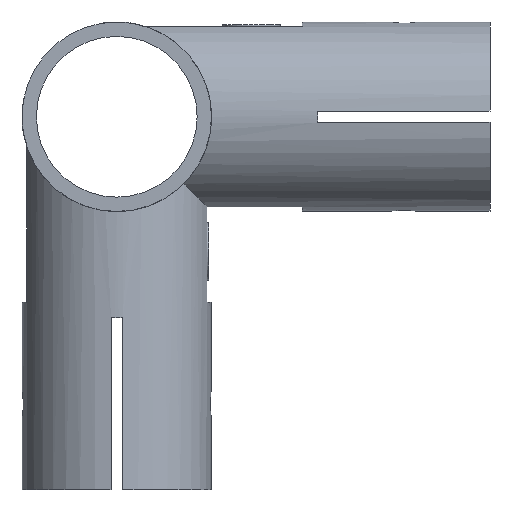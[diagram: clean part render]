
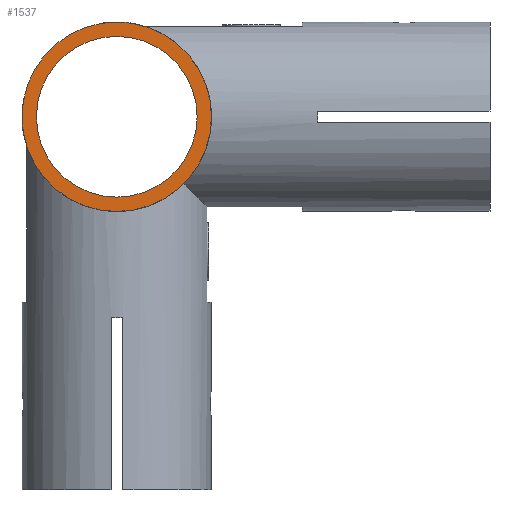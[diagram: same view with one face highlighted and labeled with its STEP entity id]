
A CAD part, front view. The second image highlights one B-rep face of the part: STEP entity #1537.
In plain terms, the highlighted planar face has unit normal (0, -1, 0).
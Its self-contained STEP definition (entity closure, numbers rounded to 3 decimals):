
#152 = CARTESIAN_POINT ( 'NONE',  ( 0., -16.5, 0. ) ) ;
#287 = ORIENTED_EDGE ( 'NONE', *, *, #788, .F. ) ;
#318 = AXIS2_PLACEMENT_3D ( 'NONE', #152, #434, #1244 ) ;
#378 = AXIS2_PLACEMENT_3D ( 'NONE', #2059, #723, #3054 ) ;
#386 = DIRECTION ( 'NONE',  ( 0., 1., 0. ) ) ;
#409 = VERTEX_POINT ( 'NONE', #2410 ) ;
#434 = DIRECTION ( 'NONE',  ( 0., 1., 0. ) ) ;
#439 = CARTESIAN_POINT ( 'NONE',  ( 0., -16.5, 0. ) ) ;
#477 = CARTESIAN_POINT ( 'NONE',  ( 0., -16.5, 14. ) ) ;
#534 = CARTESIAN_POINT ( 'NONE',  ( 0., -16.5, -14. ) ) ;
#586 = ORIENTED_EDGE ( 'NONE', *, *, #2555, .F. ) ;
#591 = AXIS2_PLACEMENT_3D ( 'NONE', #439, #1508, #2545 ) ;
#601 = ORIENTED_EDGE ( 'NONE', *, *, #1580, .T. ) ;
#673 = DIRECTION ( 'NONE',  ( 0., 1., 0. ) ) ;
#723 = DIRECTION ( 'NONE',  ( 0., 1., 0. ) ) ;
#788 = EDGE_CURVE ( 'NONE', #2406, #1974, #2949, .T. ) ;
#835 = AXIS2_PLACEMENT_3D ( 'NONE', #2783, #673, #3025 ) ;
#862 = CARTESIAN_POINT ( 'NONE',  ( 0., -16.5, 0. ) ) ;
#883 = FACE_BOUND ( 'NONE', #2546, .T. ) ;
#1075 = ORIENTED_EDGE ( 'NONE', *, *, #2007, .T. ) ;
#1244 = DIRECTION ( 'NONE',  ( 0., 0., 1. ) ) ;
#1417 = CIRCLE ( 'NONE', #318, 14. ) ;
#1498 = DIRECTION ( 'NONE',  ( 0., 0., 1. ) ) ;
#1508 = DIRECTION ( 'NONE',  ( 0., 1., 0. ) ) ;
#1537 = ADVANCED_FACE ( 'NONE', ( #3237, #883 ), #2305, .F. ) ;
#1580 = EDGE_CURVE ( 'NONE', #3230, #1608, #2132, .T. ) ;
#1608 = VERTEX_POINT ( 'NONE', #477 ) ;
#1685 = AXIS2_PLACEMENT_3D ( 'NONE', #3082, #3016, #1498 ) ;
#1869 = CIRCLE ( 'NONE', #835, 16.5 ) ;
#1883 = DIRECTION ( 'NONE',  ( 0., 0., 1. ) ) ;
#1893 = EDGE_CURVE ( 'NONE', #409, #2406, #3169, .T. ) ;
#1974 = VERTEX_POINT ( 'NONE', #3292 ) ;
#1979 = EDGE_LOOP ( 'NONE', ( #586, #287, #2438 ) ) ;
#2007 = EDGE_CURVE ( 'NONE', #1608, #3230, #1417, .T. ) ;
#2059 = CARTESIAN_POINT ( 'NONE',  ( 0., -16.5, 0. ) ) ;
#2108 = CARTESIAN_POINT ( 'NONE',  ( 0., -16.5, 16.5 ) ) ;
#2132 = CIRCLE ( 'NONE', #591, 14. ) ;
#2141 = AXIS2_PLACEMENT_3D ( 'NONE', #862, #386, #1883 ) ;
#2305 = PLANE ( 'NONE',  #378 ) ;
#2406 = VERTEX_POINT ( 'NONE', #2108 ) ;
#2410 = CARTESIAN_POINT ( 'NONE',  ( 0., -16.5, -16.5 ) ) ;
#2438 = ORIENTED_EDGE ( 'NONE', *, *, #1893, .F. ) ;
#2545 = DIRECTION ( 'NONE',  ( 0., 0., 1. ) ) ;
#2546 = EDGE_LOOP ( 'NONE', ( #601, #1075 ) ) ;
#2555 = EDGE_CURVE ( 'NONE', #1974, #409, #1869, .T. ) ;
#2783 = CARTESIAN_POINT ( 'NONE',  ( 0., -16.5, 0. ) ) ;
#2949 = CIRCLE ( 'NONE', #1685, 16.5 ) ;
#3016 = DIRECTION ( 'NONE',  ( 0., 1., 0. ) ) ;
#3025 = DIRECTION ( 'NONE',  ( 0., 0., 1. ) ) ;
#3054 = DIRECTION ( 'NONE',  ( 0., 0., 1. ) ) ;
#3082 = CARTESIAN_POINT ( 'NONE',  ( 0., -16.5, 0. ) ) ;
#3169 = CIRCLE ( 'NONE', #2141, 16.5 ) ;
#3230 = VERTEX_POINT ( 'NONE', #534 ) ;
#3237 = FACE_OUTER_BOUND ( 'NONE', #1979, .T. ) ;
#3292 = CARTESIAN_POINT ( 'NONE',  ( 16.5, -16.5, 0. ) ) ;
